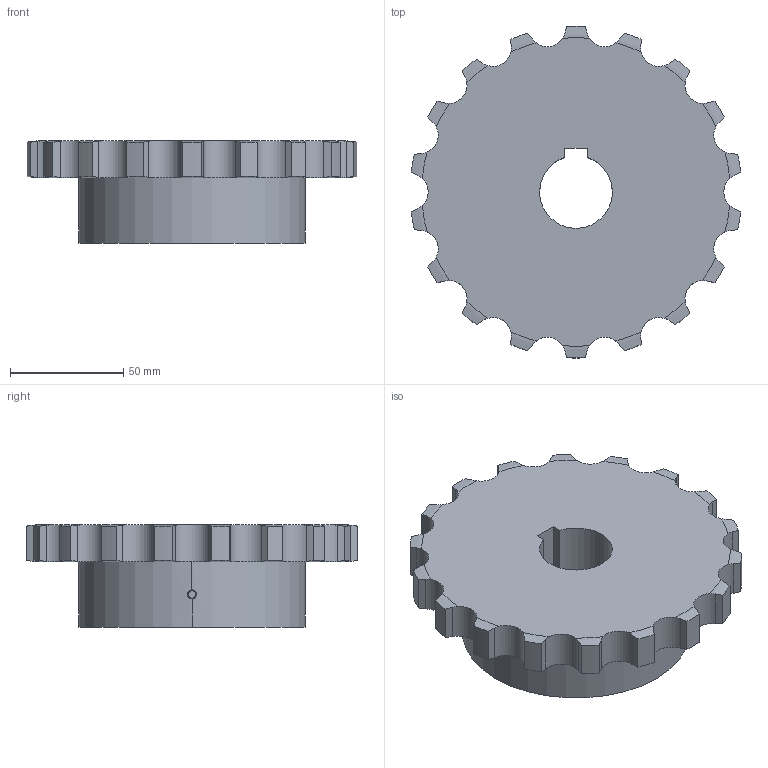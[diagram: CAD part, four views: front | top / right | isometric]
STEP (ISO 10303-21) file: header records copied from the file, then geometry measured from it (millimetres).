
FILE_DESCRIPTION((''),'2;1');
FILE_NAME('510-501-3218_PRT','2021-02-13T',('Brieden'),('Brieden'),'PRO/ENGINEER BY PARAMETRIC TECHNOLOGY CORPORATION, 2010160','PRO/ENGINEER BY PARAMETRIC TECHNOLOGY CORPORATION, 2010160','');
FILE_SCHEMA(('AUTOMOTIVE_DESIGN { 1 0 10303 214 1 1 1 1 }'));
Length unit declared in the file: millimetre
Products named in the file (1): 510-501-3218_PRT
Bounding box: 145.23 x 146.26 x 45 mm (x, y, z)
Volume: 430888.7 mm3; surface area: 51838 mm2
Topology: 1 solids, 1 shells, 129 faces, 369 edges, 244 vertices
Faces by surface type: cylinder 79, torus 36, plane 8, bspline 6
Entity records: 6324 total; most frequent: CARTESIAN_POINT 1985, ORIENTED_EDGE 738, DIRECTION 577, PRESENTATION_STYLE_ASSIGNMENT 370, STYLED_ITEM 370, CURVE_STYLE 369, EDGE_CURVE 369, VERTEX_POINT 244
